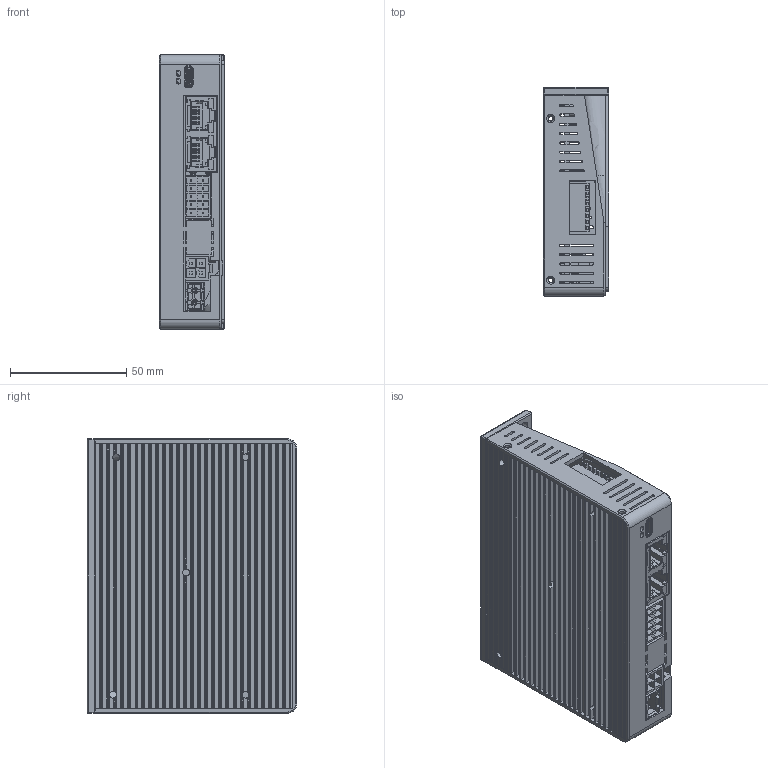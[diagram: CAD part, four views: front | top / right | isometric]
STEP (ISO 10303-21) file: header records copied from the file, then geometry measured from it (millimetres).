
FILE_DESCRIPTION((''),'2;1');
FILE_NAME('CL3C_EC507_ASM_14_ASM','2022-09-02T',('Administrator'),(''),'PRO/ENGINEER BY PARAMETRIC TECHNOLOGY CORPORATION, 2010280','PRO/ENGINEER BY PARAMETRIC TECHNOLOGY CORPORATION, 2010280','');
FILE_SCHEMA(('CONFIG_CONTROL_DESIGN'));
Products named in the file (27): PCB__2; DIP_SWITCH_8PIN_VIC2_1; MANIFOLD_SOLID_BREP_66795; MANIFOLD_SOLID_BREP_66883; FCI_USB_ANY_1_ASM; FUS606_REF_1; C-1932389-1-3-3D__1; MANIFOLD_SOLID_BREP_118100; MANIFOLD_SOLID_BREP_118347; MANIFOLD_SOLID_BREP_118594; MANIFOLD_SOLID_BREP_118841; MANIFOLD_SOLID_BREP_119088; MANIFOLD_SOLID_BREP_119335; MANIFOLD_SOLID_BREP_119582; MANIFOLD_SOLID_BREP_119829; MANIFOLD_SOLID_BREP_120076; MANIFOLD_SOLID_BREP_120323; MANIFOLD_SOLID_BREP_120570; 15EDGRHB_THR_3_5_10__1_ASM; 00_STYLE_04PIN__1; 5PIN_MINIUSB_SOCKET_1_1_1; PCB__ASM_4_ASM; SCREW__ASM_1_ASM; CONNECTOR_5MMCLOSED2PIN_MALE_1; 1_4; 2_11; CL3C_EC507_ASM_14_ASM
Assembly tree (27 placements, depth 4):
  CL3C_EC507_ASM_14_ASM
    PCB__ASM_4_ASM
      PCB__2
      DIP_SWITCH_8PIN_VIC2_1  x2
      FCI_USB_ANY_1_ASM
        MANIFOLD_SOLID_BREP_66795
        MANIFOLD_SOLID_BREP_66883
      FUS606_REF_1
      C-1932389-1-3-3D__1
      15EDGRHB_THR_3_5_10__1_ASM
        MANIFOLD_SOLID_BREP_118100
        MANIFOLD_SOLID_BREP_118347
        MANIFOLD_SOLID_BREP_118594
        MANIFOLD_SOLID_BREP_118841
        MANIFOLD_SOLID_BREP_119088
        MANIFOLD_SOLID_BREP_119335
        MANIFOLD_SOLID_BREP_119582
        MANIFOLD_SOLID_BREP_119829
        MANIFOLD_SOLID_BREP_120076
        MANIFOLD_SOLID_BREP_120323
        MANIFOLD_SOLID_BREP_120570
      00_STYLE_04PIN__1
      5PIN_MINIUSB_SOCKET_1_1_1
    SCREW__ASM_1_ASM
    CONNECTOR_5MMCLOSED2PIN_MALE_1
    1_4
    2_11
Bounding box: 28 x 90 x 118 mm (x, y, z)
Volume: 101373.9 mm3; surface area: 107374.7 mm2
Topology: 23 solids, 23 shells, 3624 faces, 10164 edges, 6684 vertices
Faces by surface type: plane 2960, cylinder 596, cone 40, bspline 14, sphere 12, torus 2
Entity records: 110605 total; most frequent: CARTESIAN_POINT 21195, ORIENTED_EDGE 19106, DIRECTION 17486, EDGE_CURVE 9553, VECTOR 7994, LINE 7994, VERTEX_POINT 6290, AXIS2_PLACEMENT_3D 4746
